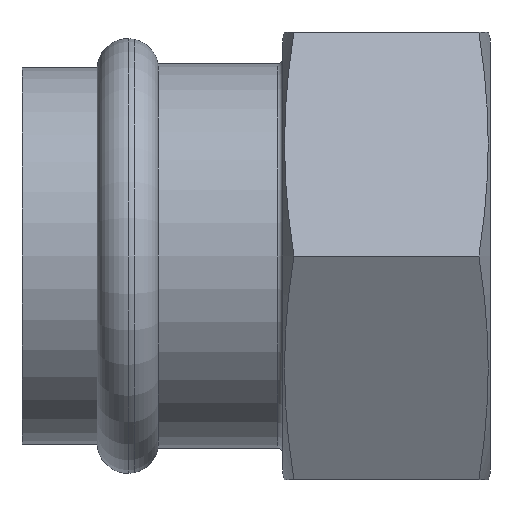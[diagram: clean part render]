
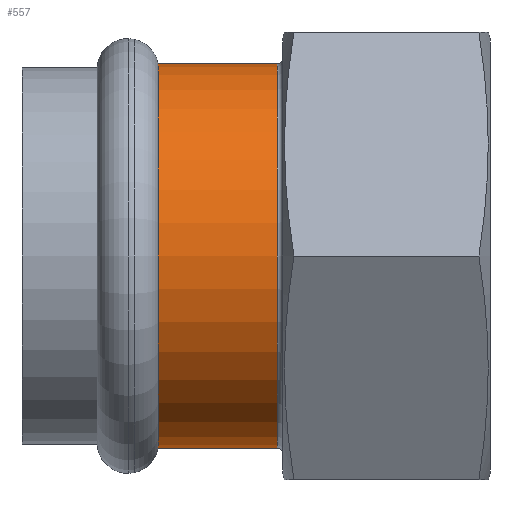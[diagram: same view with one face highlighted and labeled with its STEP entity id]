
A CAD part, left-side view. The second image highlights one B-rep face of the part: STEP entity #557.
In plain terms, the highlighted cylindrical face has radius 28.75 mm (diameter 57.5 mm), a full revolution.
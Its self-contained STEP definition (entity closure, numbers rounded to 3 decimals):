
#46=CYLINDRICAL_SURFACE('',#643,28.75);
#57=LINE('',#952,#78);
#78=VECTOR('',#781,28.75);
#114=FACE_OUTER_BOUND('',#149,.T.);
#149=EDGE_LOOP('',(#427,#428,#429,#430,#431,#432));
#173=CIRCLE('',#600,28.75);
#174=CIRCLE('',#601,28.75);
#200=CIRCLE('',#637,28.75);
#201=CIRCLE('',#638,28.75);
#223=VERTEX_POINT('',#873);
#224=VERTEX_POINT('',#875);
#248=VERTEX_POINT('',#940);
#249=VERTEX_POINT('',#942);
#283=EDGE_CURVE('',#223,#224,#173,.T.);
#284=EDGE_CURVE('',#224,#223,#174,.T.);
#315=EDGE_CURVE('',#248,#249,#200,.T.);
#316=EDGE_CURVE('',#249,#248,#201,.T.);
#320=EDGE_CURVE('',#223,#248,#57,.T.);
#427=ORIENTED_EDGE('',*,*,#284,.F.);
#428=ORIENTED_EDGE('',*,*,#283,.F.);
#429=ORIENTED_EDGE('',*,*,#320,.T.);
#430=ORIENTED_EDGE('',*,*,#316,.F.);
#431=ORIENTED_EDGE('',*,*,#315,.F.);
#432=ORIENTED_EDGE('',*,*,#320,.F.);
#557=ADVANCED_FACE('',(#114),#46,.T.);
#600=AXIS2_PLACEMENT_3D('',#876,#688,#689);
#601=AXIS2_PLACEMENT_3D('',#877,#690,#691);
#637=AXIS2_PLACEMENT_3D('',#943,#767,#768);
#638=AXIS2_PLACEMENT_3D('',#944,#769,#770);
#643=AXIS2_PLACEMENT_3D('',#951,#779,#780);
#688=DIRECTION('center_axis',(0.,1.,0.));
#689=DIRECTION('ref_axis',(1.,0.,0.));
#690=DIRECTION('center_axis',(0.,1.,0.));
#691=DIRECTION('ref_axis',(1.,0.,0.));
#767=DIRECTION('center_axis',(0.,-1.,0.));
#768=DIRECTION('ref_axis',(0.,0.,-1.));
#769=DIRECTION('center_axis',(0.,-1.,0.));
#770=DIRECTION('ref_axis',(0.,0.,-1.));
#779=DIRECTION('center_axis',(0.,1.,0.));
#780=DIRECTION('ref_axis',(0.,0.,1.));
#781=DIRECTION('',(0.,-1.,0.));
#873=CARTESIAN_POINT('',(0.,-20.359,-28.75));
#875=CARTESIAN_POINT('',(0.,-20.359,28.75));
#876=CARTESIAN_POINT('Origin',(0.,-20.359,0.));
#877=CARTESIAN_POINT('Origin',(0.,-20.359,0.));
#940=CARTESIAN_POINT('',(0.,-38.2,-28.75));
#942=CARTESIAN_POINT('',(0.,-38.2,28.75));
#943=CARTESIAN_POINT('Origin',(0.,-38.2,0.));
#944=CARTESIAN_POINT('Origin',(0.,-38.2,0.));
#951=CARTESIAN_POINT('Origin',(0.,-30.179,0.));
#952=CARTESIAN_POINT('',(0.,-30.179,-28.75));
